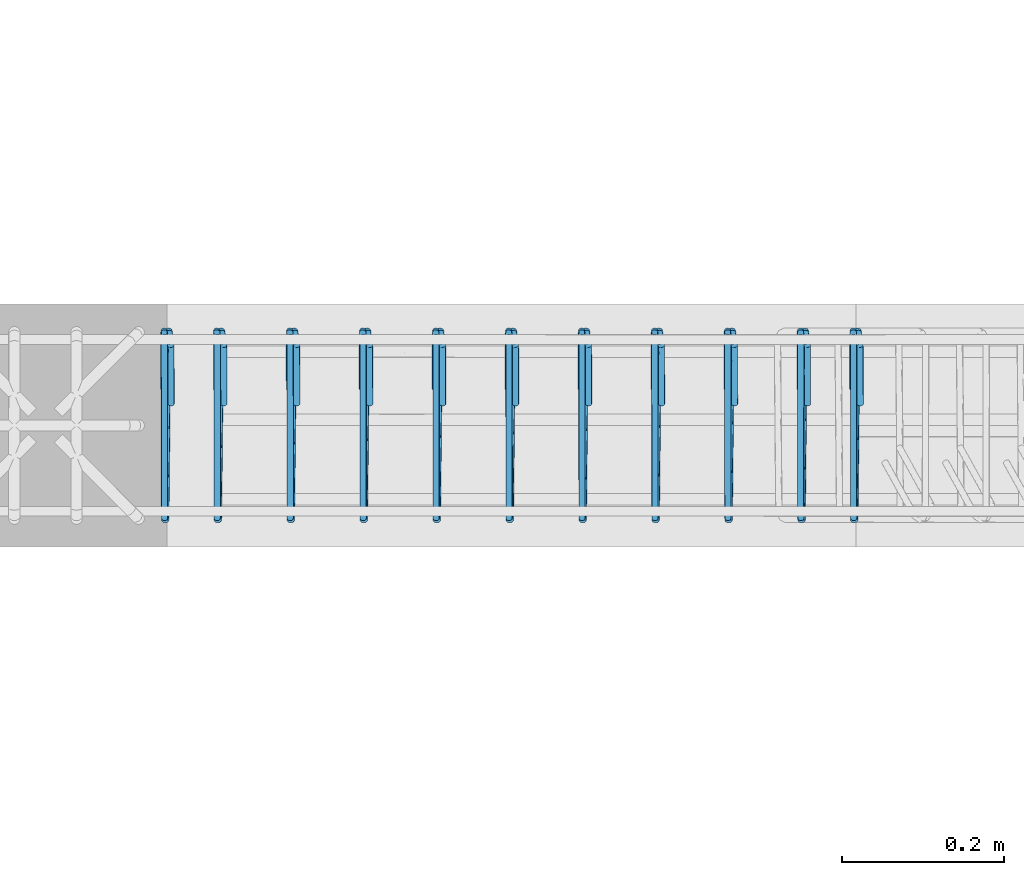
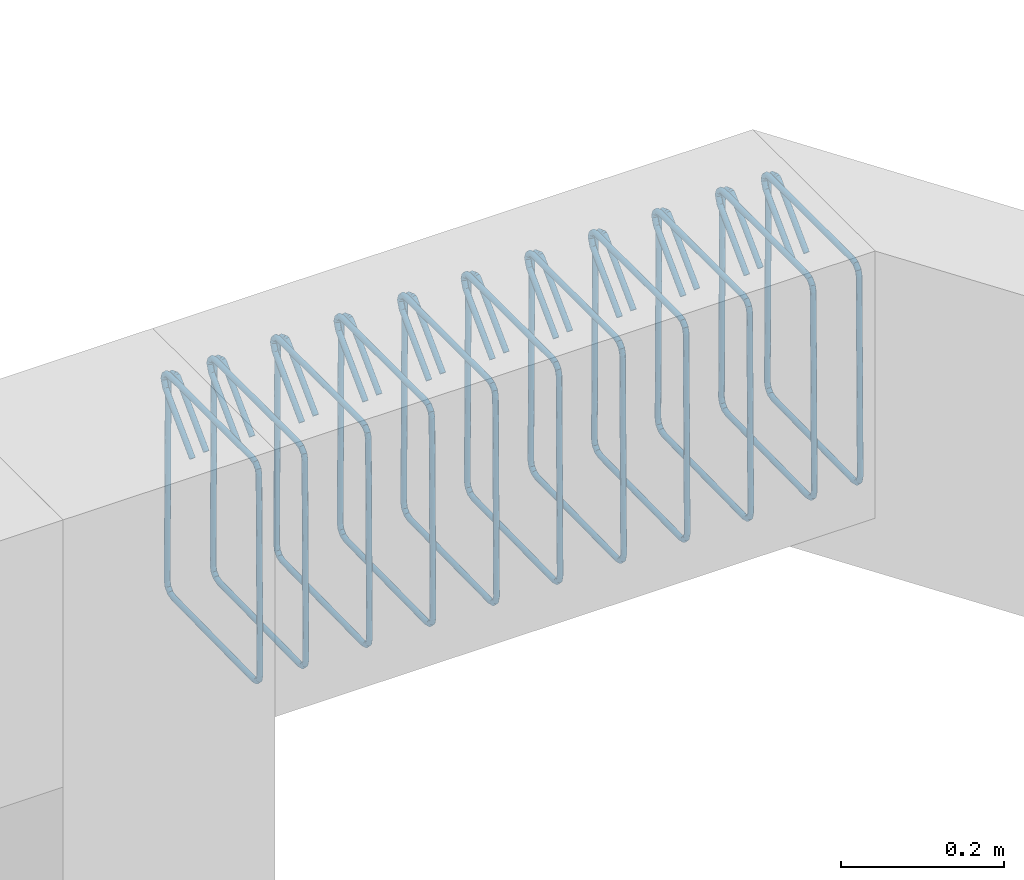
# One storey, part 23 of 24: 1 reinforcing bar.
"""IFC2X3 building model written with IfcOpenShell, lengths in metres."""

from ifc_helpers import new_model, entity, si_unit, direction, frame, origin, place, context, subcontext, project, spatial, shape, source, transform, mapped, element, save


model = new_model("IFC2X3")

# Units and contexts
model_context = context("Model", 3, precision=0.0, world=origin(), true_north=direction((0.0, 1.0)))
plan_context = context("Plan", 3, precision=0.0, world=origin(), true_north=direction((0.0, 1.0)))
body_context = subcontext(model_context, "Body", "Model", "MODEL_VIEW", scale=1.0)
ifc_project = project(units=[si_unit("LENGTHUNIT", "METRE"), si_unit("AREAUNIT", "SQUARE_METRE"), si_unit("VOLUMEUNIT", "CUBIC_METRE"), si_unit("PLANEANGLEUNIT", "RADIAN"), si_unit("THERMODYNAMICTEMPERATUREUNIT", "DEGREE_CELSIUS"), si_unit("FORCEUNIT", "NEWTON"), si_unit("MASSUNIT", "GRAM", prefix="KILO")], contexts=[model_context, plan_context])

# Site, building, storey
placement = place(None, origin())
site = spatial("IfcSite", under=ifc_project, at=placement, Name="Default Site", CompositionType="ELEMENT")
building = spatial("IfcBuilding", under=site, at=placement, Name="Default Building", CompositionType="ELEMENT")
storey_placement = place(placement, frame((0.0, 0.0, 3.3), z_axis=(1.0, 0.0, 0.0), x_axis=(0.0, 0.0, 1.0)))
storey = spatial("IfcBuildingStorey", under=building, at=storey_placement, Name="Piano 2", CompositionType="ELEMENT", Elevation=3.3)

# Reinforcing bar
shared_shape_1 = source(origin(), body_context, None, "AdvancedSweptSolid", [
    entity("IfcSweptDiskSolid", entity("IfcCompositeCurve", [entity("IfcCompositeCurveSegment", "CONTINUOUS", True, entity("IfcPolyline", [entity("IfcCartesianPoint", [0.0, 0.0, 0.0]), entity("IfcCartesianPoint", [0.0, 0.066019, 0.066019]), entity("IfcCartesianPoint", [0.000256, 0.070711, 0.07734]), entity("IfcCartesianPoint", [0.000483, 0.069135, 0.083218]), entity("IfcCartesianPoint", [0.000652, 0.064829, 0.087521]), entity("IfcCartesianPoint", [0.000716, 0.058947, 0.089095]), entity("IfcCartesianPoint", [0.000831, -0.145289, 0.089095]), entity("IfcCartesianPoint", [0.000846, -0.153289, 0.086952]), entity("IfcCartesianPoint", [0.000878, -0.159146, 0.081096]), entity("IfcCartesianPoint", [0.000919, -0.161289, 0.073096]), entity("IfcCartesianPoint", [0.002406, -0.161289, -0.226906]), entity("IfcCartesianPoint", [0.002467, -0.159146, -0.234905]), entity("IfcCartesianPoint", [0.002556, -0.15329, -0.240761]), entity("IfcCartesianPoint", [0.002647, -0.145291, -0.242905]), entity("IfcCartesianPoint", [0.004677, 0.054712, -0.242905]), entity("IfcCartesianPoint", [0.004769, 0.062712, -0.240761]), entity("IfcCartesianPoint", [0.004858, 0.068567, -0.234905]), entity("IfcCartesianPoint", [0.004919, 0.070711, -0.226906]), entity("IfcCartesianPoint", [0.006406, 0.070711, 0.073106]), entity("IfcCartesianPoint", [0.006717, 0.068586, 0.081101]), entity("IfcCartesianPoint", [0.00749, 0.062781, 0.086954]), entity("IfcCartesianPoint", [0.008516, 0.05485, 0.089095]), entity("IfcCartesianPoint", [0.008756, 0.052514, 0.088627]), entity("IfcCartesianPoint", [0.008843, 0.050526, 0.087296]), entity("IfcCartesianPoint", [0.00897, -0.018385, 0.018385])]))], False), 0.004, 0.0, 0.0),
])
shared_shape_2 = source(origin(), body_context, None, "AdvancedSweptSolid", [
    entity("IfcSweptDiskSolid", entity("IfcCompositeCurve", [entity("IfcCompositeCurveSegment", "CONTINUOUS", True, entity("IfcPolyline", [entity("IfcCartesianPoint", [0.0, 0.0, 0.0]), entity("IfcCartesianPoint", [0.0, 0.066019, 0.066019]), entity("IfcCartesianPoint", [0.000256, 0.070711, 0.07734]), entity("IfcCartesianPoint", [0.000483, 0.069135, 0.083218]), entity("IfcCartesianPoint", [0.000652, 0.064829, 0.087521]), entity("IfcCartesianPoint", [0.000716, 0.058947, 0.089095]), entity("IfcCartesianPoint", [0.000831, -0.145289, 0.089095]), entity("IfcCartesianPoint", [0.000846, -0.153289, 0.086952]), entity("IfcCartesianPoint", [0.000878, -0.159146, 0.081096]), entity("IfcCartesianPoint", [0.000919, -0.161289, 0.073096]), entity("IfcCartesianPoint", [0.002406, -0.161289, -0.226906]), entity("IfcCartesianPoint", [0.002467, -0.159146, -0.234905]), entity("IfcCartesianPoint", [0.002556, -0.15329, -0.240761]), entity("IfcCartesianPoint", [0.002647, -0.145291, -0.242905]), entity("IfcCartesianPoint", [0.004677, 0.054712, -0.242905]), entity("IfcCartesianPoint", [0.004769, 0.062712, -0.240761]), entity("IfcCartesianPoint", [0.004858, 0.068567, -0.234905]), entity("IfcCartesianPoint", [0.004919, 0.070711, -0.226906]), entity("IfcCartesianPoint", [0.006406, 0.070711, 0.073106]), entity("IfcCartesianPoint", [0.006717, 0.068586, 0.081101]), entity("IfcCartesianPoint", [0.00749, 0.062781, 0.086954]), entity("IfcCartesianPoint", [0.008516, 0.05485, 0.089095]), entity("IfcCartesianPoint", [0.008756, 0.052514, 0.088627]), entity("IfcCartesianPoint", [0.008843, 0.050526, 0.087296]), entity("IfcCartesianPoint", [0.00897, -0.018385, 0.018385])]))], False), 0.004, 0.0, 0.0),
])
shared_shape_3 = source(origin(), body_context, None, "AdvancedSweptSolid", [
    entity("IfcSweptDiskSolid", entity("IfcCompositeCurve", [entity("IfcCompositeCurveSegment", "CONTINUOUS", True, entity("IfcPolyline", [entity("IfcCartesianPoint", [0.0, 0.0, 0.0]), entity("IfcCartesianPoint", [0.0, 0.066019, 0.066019]), entity("IfcCartesianPoint", [0.000256, 0.070711, 0.07734]), entity("IfcCartesianPoint", [0.000483, 0.069135, 0.083218]), entity("IfcCartesianPoint", [0.000652, 0.064829, 0.087521]), entity("IfcCartesianPoint", [0.000716, 0.058947, 0.089095]), entity("IfcCartesianPoint", [0.000831, -0.145289, 0.089095]), entity("IfcCartesianPoint", [0.000846, -0.153289, 0.086952]), entity("IfcCartesianPoint", [0.000878, -0.159146, 0.081096]), entity("IfcCartesianPoint", [0.000919, -0.161289, 0.073096]), entity("IfcCartesianPoint", [0.002406, -0.161289, -0.226906]), entity("IfcCartesianPoint", [0.002467, -0.159146, -0.234905]), entity("IfcCartesianPoint", [0.002556, -0.15329, -0.240761]), entity("IfcCartesianPoint", [0.002647, -0.145291, -0.242905]), entity("IfcCartesianPoint", [0.004677, 0.054712, -0.242905]), entity("IfcCartesianPoint", [0.004769, 0.062712, -0.240761]), entity("IfcCartesianPoint", [0.004858, 0.068567, -0.234905]), entity("IfcCartesianPoint", [0.004919, 0.070711, -0.226906]), entity("IfcCartesianPoint", [0.006406, 0.070711, 0.073106]), entity("IfcCartesianPoint", [0.006717, 0.068586, 0.081101]), entity("IfcCartesianPoint", [0.00749, 0.062781, 0.086954]), entity("IfcCartesianPoint", [0.008516, 0.05485, 0.089095]), entity("IfcCartesianPoint", [0.008756, 0.052514, 0.088627]), entity("IfcCartesianPoint", [0.008843, 0.050526, 0.087296]), entity("IfcCartesianPoint", [0.00897, -0.018385, 0.018385])]))], False), 0.004, 0.0, 0.0),
])
shared_shape_4 = source(origin(), body_context, None, "AdvancedSweptSolid", [
    entity("IfcSweptDiskSolid", entity("IfcCompositeCurve", [entity("IfcCompositeCurveSegment", "CONTINUOUS", True, entity("IfcPolyline", [entity("IfcCartesianPoint", [0.0, 0.0, 0.0]), entity("IfcCartesianPoint", [0.0, 0.066019, 0.066019]), entity("IfcCartesianPoint", [0.000256, 0.070711, 0.07734]), entity("IfcCartesianPoint", [0.000483, 0.069135, 0.083218]), entity("IfcCartesianPoint", [0.000652, 0.064829, 0.087521]), entity("IfcCartesianPoint", [0.000716, 0.058947, 0.089095]), entity("IfcCartesianPoint", [0.000831, -0.145289, 0.089095]), entity("IfcCartesianPoint", [0.000846, -0.153289, 0.086952]), entity("IfcCartesianPoint", [0.000878, -0.159146, 0.081096]), entity("IfcCartesianPoint", [0.000919, -0.161289, 0.073096]), entity("IfcCartesianPoint", [0.002406, -0.161289, -0.226906]), entity("IfcCartesianPoint", [0.002467, -0.159146, -0.234905]), entity("IfcCartesianPoint", [0.002556, -0.15329, -0.240761]), entity("IfcCartesianPoint", [0.002647, -0.145291, -0.242905]), entity("IfcCartesianPoint", [0.004677, 0.054712, -0.242905]), entity("IfcCartesianPoint", [0.004769, 0.062712, -0.240761]), entity("IfcCartesianPoint", [0.004858, 0.068567, -0.234905]), entity("IfcCartesianPoint", [0.004919, 0.070711, -0.226906]), entity("IfcCartesianPoint", [0.006406, 0.070711, 0.073106]), entity("IfcCartesianPoint", [0.006717, 0.068586, 0.081101]), entity("IfcCartesianPoint", [0.00749, 0.062781, 0.086954]), entity("IfcCartesianPoint", [0.008516, 0.05485, 0.089095]), entity("IfcCartesianPoint", [0.008756, 0.052514, 0.088627]), entity("IfcCartesianPoint", [0.008843, 0.050526, 0.087296]), entity("IfcCartesianPoint", [0.00897, -0.018385, 0.018385])]))], False), 0.004, 0.0, 0.0),
])
shared_shape_5 = source(origin(), body_context, None, "AdvancedSweptSolid", [
    entity("IfcSweptDiskSolid", entity("IfcCompositeCurve", [entity("IfcCompositeCurveSegment", "CONTINUOUS", True, entity("IfcPolyline", [entity("IfcCartesianPoint", [0.0, 0.0, 0.0]), entity("IfcCartesianPoint", [0.0, 0.066019, 0.066019]), entity("IfcCartesianPoint", [0.000256, 0.070711, 0.07734]), entity("IfcCartesianPoint", [0.000483, 0.069135, 0.083218]), entity("IfcCartesianPoint", [0.000652, 0.064829, 0.087521]), entity("IfcCartesianPoint", [0.000716, 0.058947, 0.089095]), entity("IfcCartesianPoint", [0.000831, -0.145289, 0.089095]), entity("IfcCartesianPoint", [0.000846, -0.153289, 0.086952]), entity("IfcCartesianPoint", [0.000878, -0.159146, 0.081096]), entity("IfcCartesianPoint", [0.000919, -0.161289, 0.073096]), entity("IfcCartesianPoint", [0.002406, -0.161289, -0.226906]), entity("IfcCartesianPoint", [0.002467, -0.159146, -0.234905]), entity("IfcCartesianPoint", [0.002556, -0.15329, -0.240761]), entity("IfcCartesianPoint", [0.002647, -0.145291, -0.242905]), entity("IfcCartesianPoint", [0.004677, 0.054712, -0.242905]), entity("IfcCartesianPoint", [0.004769, 0.062712, -0.240761]), entity("IfcCartesianPoint", [0.004858, 0.068567, -0.234905]), entity("IfcCartesianPoint", [0.004919, 0.070711, -0.226906]), entity("IfcCartesianPoint", [0.006406, 0.070711, 0.073106]), entity("IfcCartesianPoint", [0.006717, 0.068586, 0.081101]), entity("IfcCartesianPoint", [0.00749, 0.062781, 0.086954]), entity("IfcCartesianPoint", [0.008516, 0.05485, 0.089095]), entity("IfcCartesianPoint", [0.008756, 0.052514, 0.088627]), entity("IfcCartesianPoint", [0.008843, 0.050526, 0.087296]), entity("IfcCartesianPoint", [0.00897, -0.018385, 0.018385])]))], False), 0.004, 0.0, 0.0),
])
shared_shape_6 = source(origin(), body_context, None, "AdvancedSweptSolid", [
    entity("IfcSweptDiskSolid", entity("IfcCompositeCurve", [entity("IfcCompositeCurveSegment", "CONTINUOUS", True, entity("IfcPolyline", [entity("IfcCartesianPoint", [0.0, 0.0, 0.0]), entity("IfcCartesianPoint", [0.0, 0.066019, 0.066019]), entity("IfcCartesianPoint", [0.000256, 0.070711, 0.07734]), entity("IfcCartesianPoint", [0.000483, 0.069135, 0.083218]), entity("IfcCartesianPoint", [0.000652, 0.064829, 0.087521]), entity("IfcCartesianPoint", [0.000716, 0.058947, 0.089095]), entity("IfcCartesianPoint", [0.000831, -0.145289, 0.089095]), entity("IfcCartesianPoint", [0.000846, -0.153289, 0.086952]), entity("IfcCartesianPoint", [0.000878, -0.159146, 0.081096]), entity("IfcCartesianPoint", [0.000919, -0.161289, 0.073096]), entity("IfcCartesianPoint", [0.002406, -0.161289, -0.226906]), entity("IfcCartesianPoint", [0.002467, -0.159146, -0.234905]), entity("IfcCartesianPoint", [0.002556, -0.15329, -0.240761]), entity("IfcCartesianPoint", [0.002647, -0.145291, -0.242905]), entity("IfcCartesianPoint", [0.004677, 0.054712, -0.242905]), entity("IfcCartesianPoint", [0.004769, 0.062712, -0.240761]), entity("IfcCartesianPoint", [0.004858, 0.068567, -0.234905]), entity("IfcCartesianPoint", [0.004919, 0.070711, -0.226906]), entity("IfcCartesianPoint", [0.006406, 0.070711, 0.073106]), entity("IfcCartesianPoint", [0.006717, 0.068586, 0.081101]), entity("IfcCartesianPoint", [0.00749, 0.062781, 0.086954]), entity("IfcCartesianPoint", [0.008516, 0.05485, 0.089095]), entity("IfcCartesianPoint", [0.008756, 0.052514, 0.088627]), entity("IfcCartesianPoint", [0.008843, 0.050526, 0.087296]), entity("IfcCartesianPoint", [0.00897, -0.018385, 0.018385])]))], False), 0.004, 0.0, 0.0),
])
shared_shape_7 = source(origin(), body_context, None, "AdvancedSweptSolid", [
    entity("IfcSweptDiskSolid", entity("IfcCompositeCurve", [entity("IfcCompositeCurveSegment", "CONTINUOUS", True, entity("IfcPolyline", [entity("IfcCartesianPoint", [0.0, 0.0, 0.0]), entity("IfcCartesianPoint", [0.0, 0.066019, 0.066019]), entity("IfcCartesianPoint", [0.000256, 0.070711, 0.07734]), entity("IfcCartesianPoint", [0.000483, 0.069135, 0.083218]), entity("IfcCartesianPoint", [0.000652, 0.064829, 0.087521]), entity("IfcCartesianPoint", [0.000716, 0.058947, 0.089095]), entity("IfcCartesianPoint", [0.000831, -0.145289, 0.089095]), entity("IfcCartesianPoint", [0.000846, -0.153289, 0.086952]), entity("IfcCartesianPoint", [0.000878, -0.159146, 0.081096]), entity("IfcCartesianPoint", [0.000919, -0.161289, 0.073096]), entity("IfcCartesianPoint", [0.002406, -0.161289, -0.226906]), entity("IfcCartesianPoint", [0.002467, -0.159146, -0.234905]), entity("IfcCartesianPoint", [0.002556, -0.15329, -0.240761]), entity("IfcCartesianPoint", [0.002647, -0.145291, -0.242905]), entity("IfcCartesianPoint", [0.004677, 0.054712, -0.242905]), entity("IfcCartesianPoint", [0.004769, 0.062712, -0.240761]), entity("IfcCartesianPoint", [0.004858, 0.068567, -0.234905]), entity("IfcCartesianPoint", [0.004919, 0.070711, -0.226906]), entity("IfcCartesianPoint", [0.006406, 0.070711, 0.073106]), entity("IfcCartesianPoint", [0.006717, 0.068586, 0.081101]), entity("IfcCartesianPoint", [0.00749, 0.062781, 0.086954]), entity("IfcCartesianPoint", [0.008516, 0.05485, 0.089095]), entity("IfcCartesianPoint", [0.008756, 0.052514, 0.088627]), entity("IfcCartesianPoint", [0.008843, 0.050526, 0.087296]), entity("IfcCartesianPoint", [0.00897, -0.018385, 0.018385])]))], False), 0.004, 0.0, 0.0),
])
shared_shape_8 = source(origin(), body_context, None, "AdvancedSweptSolid", [
    entity("IfcSweptDiskSolid", entity("IfcCompositeCurve", [entity("IfcCompositeCurveSegment", "CONTINUOUS", True, entity("IfcPolyline", [entity("IfcCartesianPoint", [0.0, 0.0, 0.0]), entity("IfcCartesianPoint", [0.0, 0.066019, 0.066019]), entity("IfcCartesianPoint", [0.000256, 0.070711, 0.07734]), entity("IfcCartesianPoint", [0.000483, 0.069135, 0.083218]), entity("IfcCartesianPoint", [0.000652, 0.064829, 0.087521]), entity("IfcCartesianPoint", [0.000716, 0.058947, 0.089095]), entity("IfcCartesianPoint", [0.000831, -0.145289, 0.089095]), entity("IfcCartesianPoint", [0.000846, -0.153289, 0.086952]), entity("IfcCartesianPoint", [0.000878, -0.159146, 0.081096]), entity("IfcCartesianPoint", [0.000919, -0.161289, 0.073096]), entity("IfcCartesianPoint", [0.002406, -0.161289, -0.226906]), entity("IfcCartesianPoint", [0.002467, -0.159146, -0.234905]), entity("IfcCartesianPoint", [0.002556, -0.15329, -0.240761]), entity("IfcCartesianPoint", [0.002647, -0.145291, -0.242905]), entity("IfcCartesianPoint", [0.004677, 0.054712, -0.242905]), entity("IfcCartesianPoint", [0.004769, 0.062712, -0.240761]), entity("IfcCartesianPoint", [0.004858, 0.068567, -0.234905]), entity("IfcCartesianPoint", [0.004919, 0.070711, -0.226906]), entity("IfcCartesianPoint", [0.006406, 0.070711, 0.073106]), entity("IfcCartesianPoint", [0.006717, 0.068586, 0.081101]), entity("IfcCartesianPoint", [0.00749, 0.062781, 0.086954]), entity("IfcCartesianPoint", [0.008516, 0.05485, 0.089095]), entity("IfcCartesianPoint", [0.008756, 0.052514, 0.088627]), entity("IfcCartesianPoint", [0.008843, 0.050526, 0.087296]), entity("IfcCartesianPoint", [0.00897, -0.018385, 0.018385])]))], False), 0.004, 0.0, 0.0),
])
shared_shape_9 = source(origin(), body_context, None, "AdvancedSweptSolid", [
    entity("IfcSweptDiskSolid", entity("IfcCompositeCurve", [entity("IfcCompositeCurveSegment", "CONTINUOUS", True, entity("IfcPolyline", [entity("IfcCartesianPoint", [0.0, 0.0, 0.0]), entity("IfcCartesianPoint", [0.0, 0.066019, 0.066019]), entity("IfcCartesianPoint", [0.000256, 0.070711, 0.07734]), entity("IfcCartesianPoint", [0.000483, 0.069135, 0.083218]), entity("IfcCartesianPoint", [0.000652, 0.064829, 0.087521]), entity("IfcCartesianPoint", [0.000716, 0.058947, 0.089095]), entity("IfcCartesianPoint", [0.000831, -0.145289, 0.089095]), entity("IfcCartesianPoint", [0.000846, -0.153289, 0.086952]), entity("IfcCartesianPoint", [0.000878, -0.159146, 0.081096]), entity("IfcCartesianPoint", [0.000919, -0.161289, 0.073096]), entity("IfcCartesianPoint", [0.002406, -0.161289, -0.226906]), entity("IfcCartesianPoint", [0.002467, -0.159146, -0.234905]), entity("IfcCartesianPoint", [0.002556, -0.15329, -0.240761]), entity("IfcCartesianPoint", [0.002647, -0.145291, -0.242905]), entity("IfcCartesianPoint", [0.004677, 0.054712, -0.242905]), entity("IfcCartesianPoint", [0.004769, 0.062712, -0.240761]), entity("IfcCartesianPoint", [0.004858, 0.068567, -0.234905]), entity("IfcCartesianPoint", [0.004919, 0.070711, -0.226906]), entity("IfcCartesianPoint", [0.006406, 0.070711, 0.073106]), entity("IfcCartesianPoint", [0.006717, 0.068586, 0.081101]), entity("IfcCartesianPoint", [0.00749, 0.062781, 0.086954]), entity("IfcCartesianPoint", [0.008516, 0.05485, 0.089095]), entity("IfcCartesianPoint", [0.008756, 0.052514, 0.088627]), entity("IfcCartesianPoint", [0.008843, 0.050526, 0.087296]), entity("IfcCartesianPoint", [0.00897, -0.018385, 0.018385])]))], False), 0.004, 0.0, 0.0),
])
shared_shape_10 = source(origin(), body_context, None, "AdvancedSweptSolid", [
    entity("IfcSweptDiskSolid", entity("IfcCompositeCurve", [entity("IfcCompositeCurveSegment", "CONTINUOUS", True, entity("IfcPolyline", [entity("IfcCartesianPoint", [0.0, 0.0, 0.0]), entity("IfcCartesianPoint", [0.0, 0.066019, 0.066019]), entity("IfcCartesianPoint", [0.000256, 0.070711, 0.07734]), entity("IfcCartesianPoint", [0.000483, 0.069135, 0.083218]), entity("IfcCartesianPoint", [0.000652, 0.064829, 0.087521]), entity("IfcCartesianPoint", [0.000716, 0.058947, 0.089095]), entity("IfcCartesianPoint", [0.000831, -0.145289, 0.089095]), entity("IfcCartesianPoint", [0.000846, -0.153289, 0.086952]), entity("IfcCartesianPoint", [0.000878, -0.159146, 0.081096]), entity("IfcCartesianPoint", [0.000919, -0.161289, 0.073096]), entity("IfcCartesianPoint", [0.002406, -0.161289, -0.226906]), entity("IfcCartesianPoint", [0.002467, -0.159146, -0.234905]), entity("IfcCartesianPoint", [0.002556, -0.15329, -0.240761]), entity("IfcCartesianPoint", [0.002647, -0.145291, -0.242905]), entity("IfcCartesianPoint", [0.004677, 0.054712, -0.242905]), entity("IfcCartesianPoint", [0.004769, 0.062712, -0.240761]), entity("IfcCartesianPoint", [0.004858, 0.068567, -0.234905]), entity("IfcCartesianPoint", [0.004919, 0.070711, -0.226906]), entity("IfcCartesianPoint", [0.006406, 0.070711, 0.073106]), entity("IfcCartesianPoint", [0.006717, 0.068586, 0.081101]), entity("IfcCartesianPoint", [0.00749, 0.062781, 0.086954]), entity("IfcCartesianPoint", [0.008516, 0.05485, 0.089095]), entity("IfcCartesianPoint", [0.008756, 0.052514, 0.088627]), entity("IfcCartesianPoint", [0.008843, 0.050526, 0.087296]), entity("IfcCartesianPoint", [0.00897, -0.018385, 0.018385])]))], False), 0.004, 0.0, 0.0),
])
shared_shape_11 = source(origin(), body_context, None, "AdvancedSweptSolid", [
    entity("IfcSweptDiskSolid", entity("IfcCompositeCurve", [entity("IfcCompositeCurveSegment", "CONTINUOUS", True, entity("IfcPolyline", [entity("IfcCartesianPoint", [0.0, 0.0, 0.0]), entity("IfcCartesianPoint", [0.0, 0.066019, 0.066019]), entity("IfcCartesianPoint", [0.000256, 0.070711, 0.07734]), entity("IfcCartesianPoint", [0.000483, 0.069135, 0.083218]), entity("IfcCartesianPoint", [0.000652, 0.064829, 0.087521]), entity("IfcCartesianPoint", [0.000716, 0.058947, 0.089095]), entity("IfcCartesianPoint", [0.000831, -0.145289, 0.089095]), entity("IfcCartesianPoint", [0.000846, -0.153289, 0.086952]), entity("IfcCartesianPoint", [0.000878, -0.159146, 0.081096]), entity("IfcCartesianPoint", [0.000919, -0.161289, 0.073096]), entity("IfcCartesianPoint", [0.002406, -0.161289, -0.226906]), entity("IfcCartesianPoint", [0.002467, -0.159146, -0.234905]), entity("IfcCartesianPoint", [0.002556, -0.15329, -0.240761]), entity("IfcCartesianPoint", [0.002647, -0.145291, -0.242905]), entity("IfcCartesianPoint", [0.004677, 0.054712, -0.242905]), entity("IfcCartesianPoint", [0.004769, 0.062712, -0.240761]), entity("IfcCartesianPoint", [0.004858, 0.068567, -0.234905]), entity("IfcCartesianPoint", [0.004919, 0.070711, -0.226906]), entity("IfcCartesianPoint", [0.006406, 0.070711, 0.073106]), entity("IfcCartesianPoint", [0.006717, 0.068586, 0.081101]), entity("IfcCartesianPoint", [0.00749, 0.062781, 0.086954]), entity("IfcCartesianPoint", [0.008516, 0.05485, 0.089095]), entity("IfcCartesianPoint", [0.008756, 0.052514, 0.088627]), entity("IfcCartesianPoint", [0.008843, 0.050526, 0.087296]), entity("IfcCartesianPoint", [0.00897, -0.018385, 0.018385])]))], False), 0.004, 0.0, 0.0),
])
element("IfcReinforcingBar", 1, at=placement, inside=storey, Name="Arm Staffa; Trave:8 [Piano:2]", BarLength=15.01449, BarRole="SHEAR", BarSurface="TEXTURED", NominalDiameter=0.008, shapes=[
    shape(body_context, None, "MappedRepresentation", [mapped(shared_shape_1, transform((12.146, 5.045289, 3.169905))), mapped(shared_shape_2, transform((12.211, 5.045289, 3.169905))), mapped(shared_shape_3, transform((12.301, 5.045289, 3.169905))), mapped(shared_shape_4, transform((12.391, 5.045289, 3.169905))), mapped(shared_shape_5, transform((12.481, 5.045289, 3.169905))), mapped(shared_shape_6, transform((12.571, 5.045289, 3.169905))), mapped(shared_shape_7, transform((12.661, 5.045289, 3.169905))), mapped(shared_shape_8, transform((12.751, 5.045289, 3.169905))), mapped(shared_shape_9, transform((12.841, 5.045289, 3.169905))), mapped(shared_shape_10, transform((12.931, 5.045289, 3.169905))), mapped(shared_shape_11, transform((12.996, 5.045289, 3.169905)))]),
])

save(model, "model.ifc")
